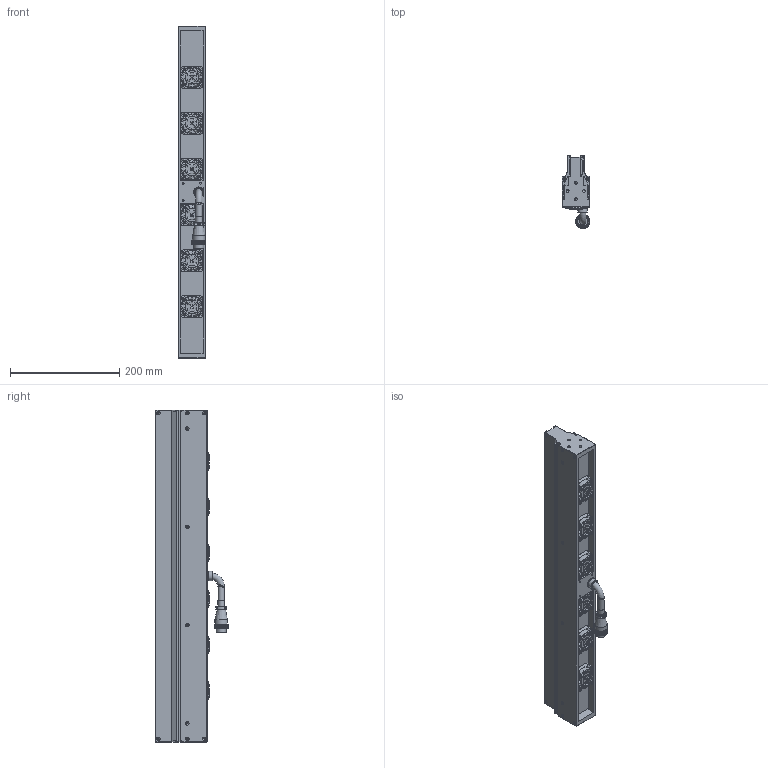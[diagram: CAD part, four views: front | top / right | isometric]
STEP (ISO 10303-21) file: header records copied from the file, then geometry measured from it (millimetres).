
FILE_DESCRIPTION (( 'STEP AP203' ), '1' );
FILE_NAME ('OPT-LSS608-W-V3.1尨砩芞.STEP', '2025-01-21T05:41:11', ( 'USER' ), ( '' ), 'SwSTEP 2.0', 'SolidWorks 2016', '' );
FILE_SCHEMA (( 'CONFIG_CONTROL_DESIGN' ));
Length unit declared in the file: millimetre
Products named in the file (2): OPT-LSS608-W-V3.1尨砩芞
Bounding box: 50.6 x 133 x 608 mm (x, y, z)
Volume: 2053347.4 mm3; surface area: 324176.9 mm2
Topology: 29 solids, 37 shells, 3176 faces, 8031 edges, 5061 vertices
Faces by surface type: bspline 1105, cylinder 955, plane 719, torus 342, cone 55
Full cylindrical faces by diameter (mm): 1 x2, 1.1 x2, 1.4 x2, 1.6 x24, 2 x6, 2.5 x24, 3 x4, 3.2 x28, 3.4 x20, 3.5 x4, 5 x8, 6.2 x24, 8 x1, 11.6 x1, 11.7 x3, 12 x1, 15 x1, 15.9 x1, 17.5 x1, 18 x1, 18.5 x1, 22.8 x1, 24 x1, 24.8 x6, 38 x6
Entity records: 117163 total; most frequent: CARTESIAN_POINT 53729, ORIENTED_EDGE 15126, DIRECTION 9012, EDGE_CURVE 7563, VERTEX_POINT 4958, B_SPLINE_CURVE_WITH_KNOTS 4359, AXIS2_PLACEMENT_3D 3743, EDGE_LOOP 3715
